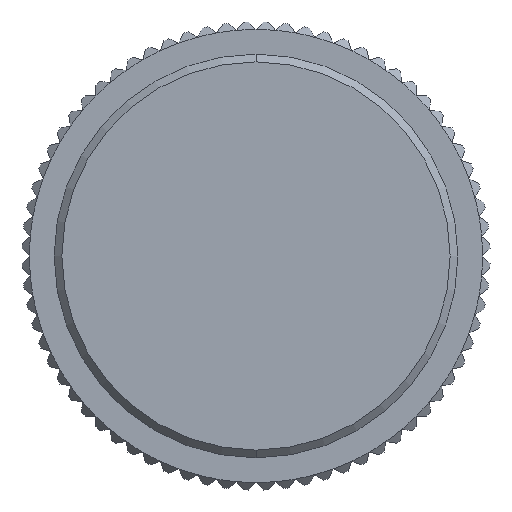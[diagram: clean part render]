
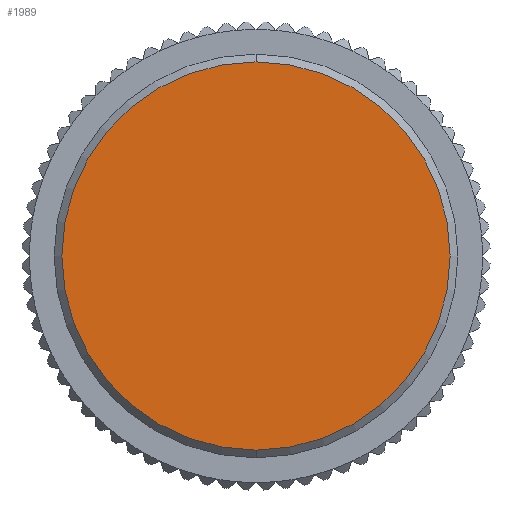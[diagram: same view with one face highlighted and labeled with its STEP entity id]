
A CAD part, front view. The second image highlights one B-rep face of the part: STEP entity #1989.
In plain terms, the highlighted planar face has unit normal (0, -1, 0).
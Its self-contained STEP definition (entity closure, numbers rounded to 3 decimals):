
#245 = FACE_OUTER_BOUND ( 'NONE', #3707, .T. ) ;
#272 = CIRCLE ( 'NONE', #9141, 12.645 ) ;
#1571 = CIRCLE ( 'NONE', #7331, 12.645 ) ;
#1755 = DIRECTION ( 'NONE',  ( 0., 0., -1. ) ) ;
#1989 = ADVANCED_FACE ( 'NONE', ( #245 ), #3491, .T. ) ;
#2175 = CARTESIAN_POINT ( 'NONE',  ( 0., 0., -12.645 ) ) ;
#2570 = VERTEX_POINT ( 'NONE', #2175 ) ;
#2697 = ORIENTED_EDGE ( 'NONE', *, *, #9144, .T. ) ;
#2797 = DIRECTION ( 'NONE',  ( 0., 0., -1. ) ) ;
#3491 = PLANE ( 'NONE',  #7430 ) ;
#3707 = EDGE_LOOP ( 'NONE', ( #2697, #7081 ) ) ;
#3774 = DIRECTION ( 'NONE',  ( 0., -1., 0. ) ) ;
#4682 = CARTESIAN_POINT ( 'NONE',  ( 0., 0., 0. ) ) ;
#6203 = CARTESIAN_POINT ( 'NONE',  ( 0., 0., 12.645 ) ) ;
#6644 = DIRECTION ( 'NONE',  ( 0., 0., -1. ) ) ;
#7081 = ORIENTED_EDGE ( 'NONE', *, *, #9308, .T. ) ;
#7331 = AXIS2_PLACEMENT_3D ( 'NONE', #4682, #9671, #1755 ) ;
#7430 = AXIS2_PLACEMENT_3D ( 'NONE', #8986, #9713, #6644 ) ;
#8776 = VERTEX_POINT ( 'NONE', #6203 ) ;
#8986 = CARTESIAN_POINT ( 'NONE',  ( 0., 0., -13.145 ) ) ;
#9141 = AXIS2_PLACEMENT_3D ( 'NONE', #9219, #3774, #2797 ) ;
#9144 = EDGE_CURVE ( 'NONE', #8776, #2570, #272, .T. ) ;
#9219 = CARTESIAN_POINT ( 'NONE',  ( 0., 0., 0. ) ) ;
#9308 = EDGE_CURVE ( 'NONE', #2570, #8776, #1571, .T. ) ;
#9671 = DIRECTION ( 'NONE',  ( 0., -1., 0. ) ) ;
#9713 = DIRECTION ( 'NONE',  ( 0., -1., 0. ) ) ;
